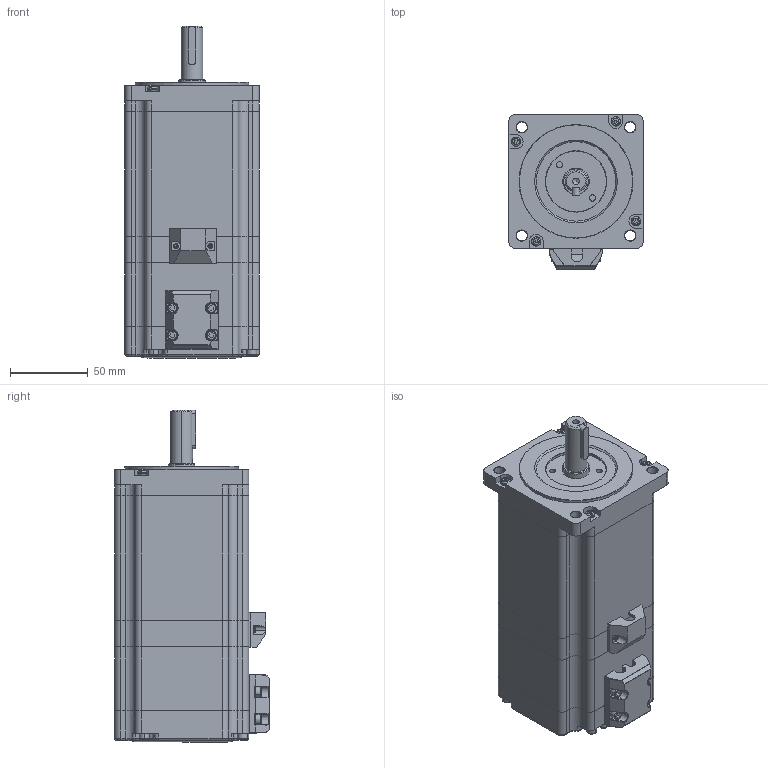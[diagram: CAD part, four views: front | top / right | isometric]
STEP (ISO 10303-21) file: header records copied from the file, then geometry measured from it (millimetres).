
FILE_DESCRIPTION(/* description */ (''),/* implementation_level */ '2;1');
FILE_NAME(/* name */ '86J18118EC-1000-LS-SCG-YJ.stp',/* time_stamp */ '2019-08-31T15:09:33+08:00',/* author */ (''),/* organization */ (''),/* preprocessor_version */ 'ST-DEVELOPER v14',/* originating_system */ 'SIEMENS PLM Software NX 8.0',/* authorisation */ '');
FILE_SCHEMA (('AP203_CONFIGURATION_CONTROLLED_3D_DESIGN_OF_MECHANICAL_PARTS_AND_ASSEMBLIES_MIM_LF { 1 0 10303 403 2 1 2}'));
Length unit declared in the file: millimetre
Products named in the file (1): Admi144097CE38zd
Bounding box: 86 x 99.31 x 213.07 mm (x, y, z)
Volume: 1111234.4 mm3; surface area: 149075.5 mm2
Topology: 22 solids, 22 shells, 924 faces, 2313 edges, 1458 vertices
Faces by surface type: plane 391, cylinder 309, torus 75, cone 68, bspline 62, sphere 19
Full cylindrical faces by diameter (mm): 3.2 x2, 4 x6, 4.2 x1, 17 x1, 39 x1, 73 x1
Entity records: 32701 total; most frequent: CARTESIAN_POINT 10992, ORIENTED_EDGE 4516, DIRECTION 4478, EDGE_CURVE 2258, AXIS2_PLACEMENT_3D 1652, VERTEX_POINT 1442, LINE 1174, VECTOR 1174
